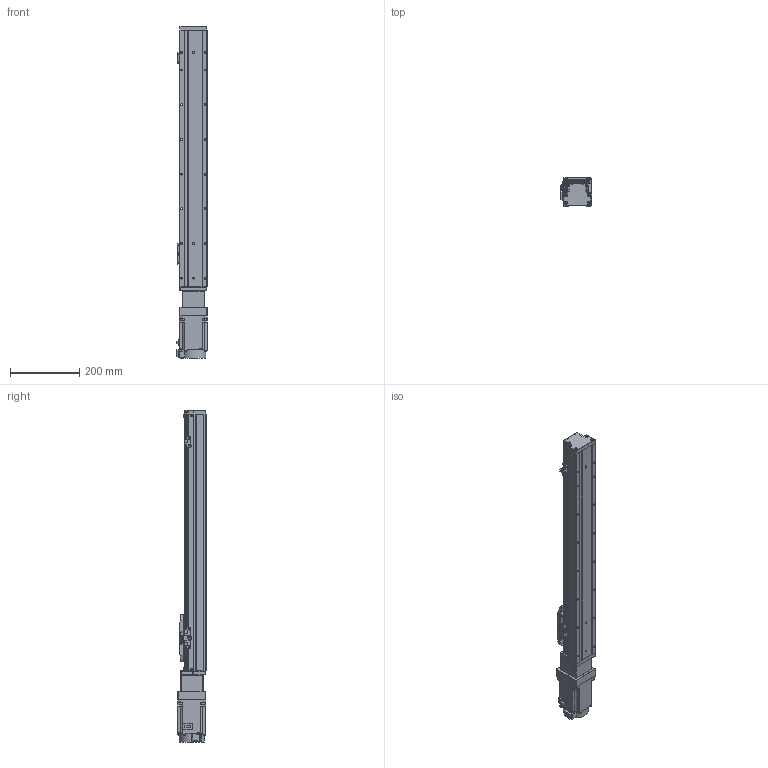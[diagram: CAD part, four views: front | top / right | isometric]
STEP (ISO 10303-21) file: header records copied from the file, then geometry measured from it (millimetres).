
FILE_DESCRIPTION (( 'STEP AP203' ), '1' );
FILE_NAME ('GTH8-550-BC-M75-C4.step', '2023-02-14T02:20:02', ( '微软用户' ), ( '微软中国' ), 'SwSTEP 2.0', 'SolidWorks 2020', '' );
FILE_SCHEMA (( 'CONFIG_CONTROL_DESIGN' ));
Length unit declared in the file: millimetre
Products named in the file (19): GTH80-028; CTHA86-027; GTH80-006; GTH50-024; hg-kn73j_-s100; GTH80-013; GTH50-023; GTH8-550-BC-M75-C4; GBT 70.3-M3℅6; GTH80-001_550; GBT96.1-2002 3×0.8; GTH80-022; BTH-M3X5X6; GBT 70.1-M3℅6; CTHA86-006-1_CTHA86-006-4; GTH80-003; GBT 70.1-M4×16; CTHA86-013; GTH80-004
Assembly tree (60 placements, depth 2):
  GTH8-550-BC-M75-C4
    GTH80-001_550
    GTH80-003
    GTH80-004
    GTH80-006
    GTH80-013
    GBT 70.3-M3℅6  x6
    GTH80-022
    GBT 70.1-M3℅6  x14
    GBT 70.1-M4×16  x8
    GTH80-028  x2
    GTH50-024  x3
    GTH50-023  x3
    GBT96.1-2002 3×0.8  x6
    BTH-M3X5X6  x8
    CTHA86-006-1_CTHA86-006-4
    CTHA86-013
    CTHA86-027
    hg-kn73j_-s100
Bounding box: 89.8 x 81.72 x 957.2 mm (x, y, z)
Volume: 4430317.7 mm3; surface area: 460435.7 mm2
Topology: 62 solids, 62 shells, 2257 faces, 5198 edges, 3168 vertices
Faces by surface type: plane 1185, cylinder 615, cone 285, torus 162, sphere 8, bspline 2
Entity records: 39637 total; most frequent: DIRECTION 6531, CARTESIAN_POINT 6530, ORIENTED_EDGE 5986, EDGE_CURVE 2993, AXIS2_PLACEMENT_3D 2287, LINE 1957, VECTOR 1957, VERTEX_POINT 1881
